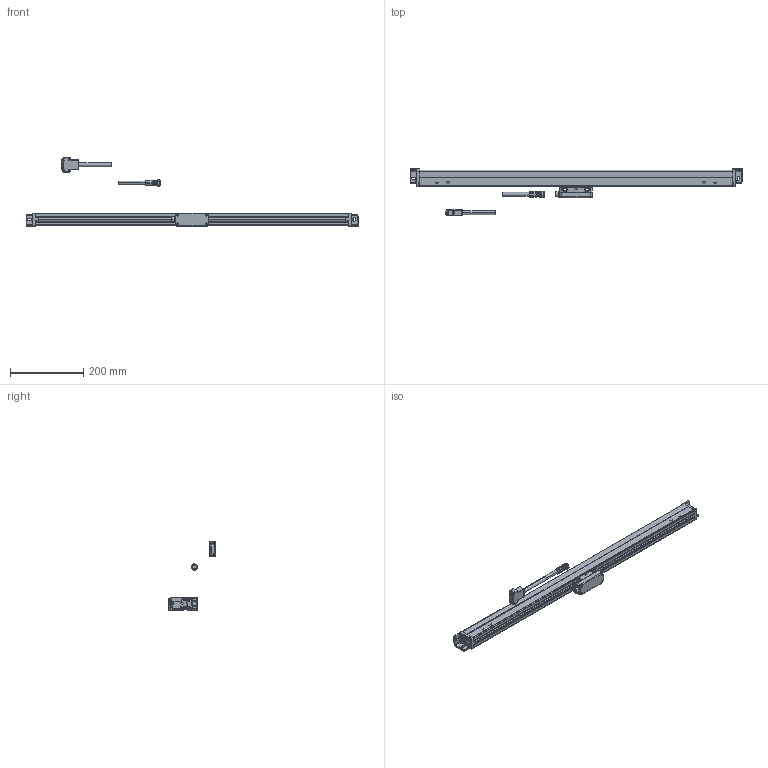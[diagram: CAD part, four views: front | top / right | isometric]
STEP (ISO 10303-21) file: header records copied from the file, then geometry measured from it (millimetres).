
FILE_DESCRIPTION(('Creo Elements/Direct Modeling STEP Export'),'2;1');
FILE_NAME('AT103_AT203-700.stp','2018-01-05T14:11:20',(''),(''),'Creo Elements/Direct Modeling STEP processor for AP214 (Solid Model)','Creo Elements/Direct Modeling 18.1B 29-Sep-2012 (C) Parametric Technology GmbH','');
FILE_SCHEMA(('AUTOMOTIVE_DESIGN { 1 0 10303 214 1 1 1 1 }'));
Length unit declared in the file: millimetre
Products named in the file (5): Scale_700; Cable.1; Cable; DetectorHead; AT103_203-700
Assembly tree (4 placements, depth 2):
  AT103_203-700
    DetectorHead
    Cable
    Cable.1
    Scale_700
Bounding box: 908 x 129 x 190.1 mm (x, y, z)
Volume: 1449216.1 mm3; surface area: 205746.5 mm2
Topology: 4 solids, 8 shells, 1072 faces, 2655 edges, 1645 vertices
Faces by surface type: plane 603, cylinder 290, cone 80, torus 58, sphere 16, extrusion 16, bspline 5, revolution 4
Entity records: 33826 total; most frequent: CARTESIAN_POINT 6553, ORIENTED_EDGE 5276, DIRECTION 5000, EDGE_CURVE 2638, AXIS2_PLACEMENT_3D 1684, VERTEX_POINT 1645, VECTOR 1626, LINE 1620
